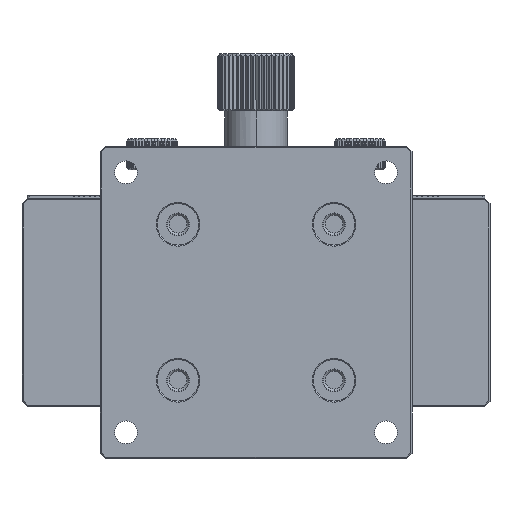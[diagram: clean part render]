
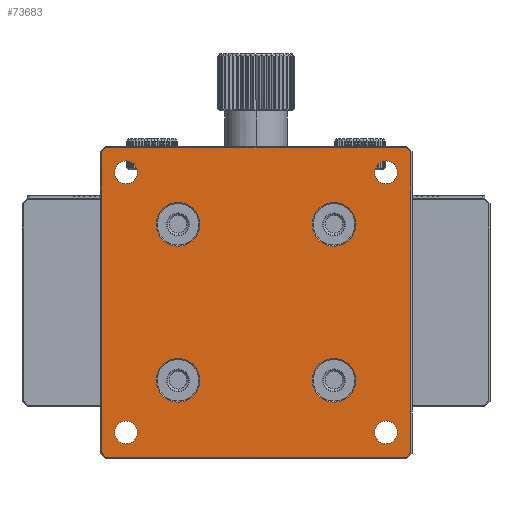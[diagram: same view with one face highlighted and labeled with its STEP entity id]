
A CAD part, front view. The second image highlights one B-rep face of the part: STEP entity #73683.
In plain terms, the highlighted planar face has unit normal (0, -1, 0).
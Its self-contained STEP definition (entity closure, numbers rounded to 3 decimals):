
#72572=CARTESIAN_POINT('',(-25.,0.,-25.));
#72573=DIRECTION('',(0.,1.,0.));
#72574=DIRECTION('',(1.,0.,0.));
#72575=AXIS2_PLACEMENT_3D('',#72572,#72573,#72574);
#72577=CARTESIAN_POINT('',(-25.,0.,-25.));
#72578=DIRECTION('',(0.,1.,0.));
#72579=DIRECTION('',(-1.,0.,0.));
#72580=AXIS2_PLACEMENT_3D('',#72577,#72578,#72579);
#72582=CARTESIAN_POINT('',(25.,0.,-25.));
#72583=DIRECTION('',(0.,1.,0.));
#72584=DIRECTION('',(1.,0.,0.));
#72585=AXIS2_PLACEMENT_3D('',#72582,#72583,#72584);
#72587=CARTESIAN_POINT('',(25.,0.,-25.));
#72588=DIRECTION('',(0.,1.,0.));
#72589=DIRECTION('',(-1.,0.,0.));
#72590=AXIS2_PLACEMENT_3D('',#72587,#72588,#72589);
#72592=CARTESIAN_POINT('',(-25.,0.,25.));
#72593=DIRECTION('',(0.,1.,0.));
#72594=DIRECTION('',(1.,0.,0.));
#72595=AXIS2_PLACEMENT_3D('',#72592,#72593,#72594);
#72597=CARTESIAN_POINT('',(-25.,0.,25.));
#72598=DIRECTION('',(0.,1.,0.));
#72599=DIRECTION('',(-1.,0.,0.));
#72600=AXIS2_PLACEMENT_3D('',#72597,#72598,#72599);
#72602=CARTESIAN_POINT('',(25.,0.,25.));
#72603=DIRECTION('',(0.,1.,0.));
#72604=DIRECTION('',(1.,0.,0.));
#72605=AXIS2_PLACEMENT_3D('',#72602,#72603,#72604);
#72607=CARTESIAN_POINT('',(25.,0.,25.));
#72608=DIRECTION('',(0.,1.,0.));
#72609=DIRECTION('',(-1.,0.,0.));
#72610=AXIS2_PLACEMENT_3D('',#72607,#72608,#72609);
#72612=DIRECTION('',(-0.707,0.,-0.707));
#72613=VECTOR('',#72612,1.249);
#72614=CARTESIAN_POINT('',(-28.917,0.,29.8));
#72615=LINE('',#72614,#72613);
#72616=DIRECTION('',(-1.,0.,0.));
#72617=VECTOR('',#72616,57.834);
#72618=CARTESIAN_POINT('',(28.917,0.,29.8));
#72619=LINE('',#72618,#72617);
#72620=DIRECTION('',(-0.707,0.,0.707));
#72621=VECTOR('',#72620,1.249);
#72622=CARTESIAN_POINT('',(29.8,0.,28.917));
#72623=LINE('',#72622,#72621);
#72624=DIRECTION('',(0.,0.,1.));
#72625=VECTOR('',#72624,57.834);
#72626=CARTESIAN_POINT('',(29.8,0.,-28.917));
#72627=LINE('',#72626,#72625);
#72628=DIRECTION('',(0.707,0.,0.707));
#72629=VECTOR('',#72628,1.249);
#72630=CARTESIAN_POINT('',(28.917,0.,-29.8));
#72631=LINE('',#72630,#72629);
#72632=DIRECTION('',(1.,0.,0.));
#72633=VECTOR('',#72632,57.834);
#72634=CARTESIAN_POINT('',(-28.917,0.,-29.8));
#72635=LINE('',#72634,#72633);
#72636=DIRECTION('',(0.707,0.,-0.707));
#72637=VECTOR('',#72636,1.249);
#72638=CARTESIAN_POINT('',(-29.8,0.,-28.917));
#72639=LINE('',#72638,#72637);
#72640=DIRECTION('',(0.,0.,-1.));
#72641=VECTOR('',#72640,57.834);
#72642=CARTESIAN_POINT('',(-29.8,0.,28.917));
#72643=LINE('',#72642,#72641);
#72644=CARTESIAN_POINT('',(15.,0.,-15.));
#72645=DIRECTION('',(0.,1.,0.));
#72646=DIRECTION('',(-1.,0.,0.));
#72647=AXIS2_PLACEMENT_3D('',#72644,#72645,#72646);
#72649=CARTESIAN_POINT('',(15.,0.,-15.));
#72650=DIRECTION('',(0.,1.,0.));
#72651=DIRECTION('',(1.,0.,0.));
#72652=AXIS2_PLACEMENT_3D('',#72649,#72650,#72651);
#72654=CARTESIAN_POINT('',(15.,0.,15.));
#72655=DIRECTION('',(0.,1.,0.));
#72656=DIRECTION('',(-1.,0.,0.));
#72657=AXIS2_PLACEMENT_3D('',#72654,#72655,#72656);
#72659=CARTESIAN_POINT('',(15.,0.,15.));
#72660=DIRECTION('',(0.,1.,0.));
#72661=DIRECTION('',(1.,0.,0.));
#72662=AXIS2_PLACEMENT_3D('',#72659,#72660,#72661);
#72664=CARTESIAN_POINT('',(-15.,0.,-15.));
#72665=DIRECTION('',(0.,1.,0.));
#72666=DIRECTION('',(-1.,0.,0.));
#72667=AXIS2_PLACEMENT_3D('',#72664,#72665,#72666);
#72669=CARTESIAN_POINT('',(-15.,0.,-15.));
#72670=DIRECTION('',(0.,1.,0.));
#72671=DIRECTION('',(1.,0.,0.));
#72672=AXIS2_PLACEMENT_3D('',#72669,#72670,#72671);
#72674=CARTESIAN_POINT('',(-15.,0.,15.));
#72675=DIRECTION('',(0.,1.,0.));
#72676=DIRECTION('',(-1.,0.,0.));
#72677=AXIS2_PLACEMENT_3D('',#72674,#72675,#72676);
#72679=CARTESIAN_POINT('',(-15.,0.,15.));
#72680=DIRECTION('',(0.,1.,0.));
#72681=DIRECTION('',(1.,0.,0.));
#72682=AXIS2_PLACEMENT_3D('',#72679,#72680,#72681);
#73420=CARTESIAN_POINT('',(-22.8,0.,-25.));
#73421=CARTESIAN_POINT('',(-27.2,0.,-25.));
#73422=VERTEX_POINT('',#73420);
#73423=VERTEX_POINT('',#73421);
#73424=CARTESIAN_POINT('',(27.2,0.,-25.));
#73425=CARTESIAN_POINT('',(22.8,0.,-25.));
#73426=VERTEX_POINT('',#73424);
#73427=VERTEX_POINT('',#73425);
#73428=CARTESIAN_POINT('',(-22.8,0.,25.));
#73429=CARTESIAN_POINT('',(-27.2,0.,25.));
#73430=VERTEX_POINT('',#73428);
#73431=VERTEX_POINT('',#73429);
#73432=CARTESIAN_POINT('',(27.2,0.,25.));
#73433=CARTESIAN_POINT('',(22.8,0.,25.));
#73434=VERTEX_POINT('',#73432);
#73435=VERTEX_POINT('',#73433);
#73484=CARTESIAN_POINT('',(-28.917,0.,29.8));
#73485=CARTESIAN_POINT('',(-29.8,0.,28.917));
#73486=VERTEX_POINT('',#73484);
#73487=VERTEX_POINT('',#73485);
#73488=CARTESIAN_POINT('',(-29.8,0.,-28.917));
#73489=VERTEX_POINT('',#73488);
#73490=CARTESIAN_POINT('',(-28.917,0.,-29.8));
#73491=VERTEX_POINT('',#73490);
#73492=CARTESIAN_POINT('',(28.917,0.,-29.8));
#73493=VERTEX_POINT('',#73492);
#73494=CARTESIAN_POINT('',(29.8,0.,-28.917));
#73495=VERTEX_POINT('',#73494);
#73496=CARTESIAN_POINT('',(29.8,0.,28.917));
#73497=VERTEX_POINT('',#73496);
#73498=CARTESIAN_POINT('',(28.917,0.,29.8));
#73499=VERTEX_POINT('',#73498);
#73580=CARTESIAN_POINT('',(10.8,0.,-15.));
#73581=CARTESIAN_POINT('',(19.2,0.,-15.));
#73582=VERTEX_POINT('',#73580);
#73583=VERTEX_POINT('',#73581);
#73588=CARTESIAN_POINT('',(10.8,0.,15.));
#73589=CARTESIAN_POINT('',(19.2,0.,15.));
#73590=VERTEX_POINT('',#73588);
#73591=VERTEX_POINT('',#73589);
#73596=CARTESIAN_POINT('',(-19.2,0.,-15.));
#73597=CARTESIAN_POINT('',(-10.8,0.,-15.));
#73598=VERTEX_POINT('',#73596);
#73599=VERTEX_POINT('',#73597);
#73604=CARTESIAN_POINT('',(-19.2,0.,15.));
#73605=CARTESIAN_POINT('',(-10.8,0.,15.));
#73606=VERTEX_POINT('',#73604);
#73607=VERTEX_POINT('',#73605);
#73612=CARTESIAN_POINT('',(0.,0.,0.));
#73613=DIRECTION('',(0.,1.,0.));
#73614=DIRECTION('',(1.,0.,0.));
#73615=AXIS2_PLACEMENT_3D('',#73612,#73613,#73614);
#73616=PLANE('',#73615);
#73618=ORIENTED_EDGE('',*,*,#73617,.F.);
#73620=ORIENTED_EDGE('',*,*,#73619,.F.);
#73622=ORIENTED_EDGE('',*,*,#73621,.F.);
#73624=ORIENTED_EDGE('',*,*,#73623,.F.);
#73626=ORIENTED_EDGE('',*,*,#73625,.F.);
#73628=ORIENTED_EDGE('',*,*,#73627,.F.);
#73630=ORIENTED_EDGE('',*,*,#73629,.F.);
#73632=ORIENTED_EDGE('',*,*,#73631,.F.);
#73633=EDGE_LOOP('',(#73618,#73620,#73622,#73624,#73626,#73628,#73630,#73632));
#73634=FACE_OUTER_BOUND('',#73633,.F.);
#73636=ORIENTED_EDGE('',*,*,#73635,.F.);
#73638=ORIENTED_EDGE('',*,*,#73637,.F.);
#73639=EDGE_LOOP('',(#73636,#73638));
#73640=FACE_BOUND('',#73639,.F.);
#73642=ORIENTED_EDGE('',*,*,#73641,.F.);
#73644=ORIENTED_EDGE('',*,*,#73643,.F.);
#73645=EDGE_LOOP('',(#73642,#73644));
#73646=FACE_BOUND('',#73645,.F.);
#73648=ORIENTED_EDGE('',*,*,#73647,.F.);
#73650=ORIENTED_EDGE('',*,*,#73649,.F.);
#73651=EDGE_LOOP('',(#73648,#73650));
#73652=FACE_BOUND('',#73651,.F.);
#73654=ORIENTED_EDGE('',*,*,#73653,.F.);
#73656=ORIENTED_EDGE('',*,*,#73655,.F.);
#73657=EDGE_LOOP('',(#73654,#73656));
#73658=FACE_BOUND('',#73657,.F.);
#73660=ORIENTED_EDGE('',*,*,#73659,.F.);
#73662=ORIENTED_EDGE('',*,*,#73661,.F.);
#73663=EDGE_LOOP('',(#73660,#73662));
#73664=FACE_BOUND('',#73663,.F.);
#73666=ORIENTED_EDGE('',*,*,#73665,.F.);
#73668=ORIENTED_EDGE('',*,*,#73667,.F.);
#73669=EDGE_LOOP('',(#73666,#73668));
#73670=FACE_BOUND('',#73669,.F.);
#73672=ORIENTED_EDGE('',*,*,#73671,.F.);
#73674=ORIENTED_EDGE('',*,*,#73673,.F.);
#73675=EDGE_LOOP('',(#73672,#73674));
#73676=FACE_BOUND('',#73675,.F.);
#73678=ORIENTED_EDGE('',*,*,#73677,.F.);
#73680=ORIENTED_EDGE('',*,*,#73679,.F.);
#73681=EDGE_LOOP('',(#73678,#73680));
#73682=FACE_BOUND('',#73681,.F.);
#73683=ADVANCED_FACE('',(#73634,#73640,#73646,#73652,#73658,#73664,#73670,
#73676,#73682),#73616,.F.);
#72576=CIRCLE('',#72575,2.2);
#72581=CIRCLE('',#72580,2.2);
#72586=CIRCLE('',#72585,2.2);
#72591=CIRCLE('',#72590,2.2);
#72596=CIRCLE('',#72595,2.2);
#72601=CIRCLE('',#72600,2.2);
#72606=CIRCLE('',#72605,2.2);
#72611=CIRCLE('',#72610,2.2);
#72648=CIRCLE('',#72647,4.2);
#72653=CIRCLE('',#72652,4.2);
#72658=CIRCLE('',#72657,4.2);
#72663=CIRCLE('',#72662,4.2);
#72668=CIRCLE('',#72667,4.2);
#72673=CIRCLE('',#72672,4.2);
#72678=CIRCLE('',#72677,4.2);
#72683=CIRCLE('',#72682,4.2);
#73617=EDGE_CURVE('',#73486,#73487,#72615,.T.);
#73619=EDGE_CURVE('',#73499,#73486,#72619,.T.);
#73621=EDGE_CURVE('',#73497,#73499,#72623,.T.);
#73623=EDGE_CURVE('',#73495,#73497,#72627,.T.);
#73625=EDGE_CURVE('',#73493,#73495,#72631,.T.);
#73627=EDGE_CURVE('',#73491,#73493,#72635,.T.);
#73629=EDGE_CURVE('',#73489,#73491,#72639,.T.);
#73631=EDGE_CURVE('',#73487,#73489,#72643,.T.);
#73635=EDGE_CURVE('',#73426,#73427,#72586,.T.);
#73637=EDGE_CURVE('',#73427,#73426,#72591,.T.);
#73641=EDGE_CURVE('',#73430,#73431,#72596,.T.);
#73643=EDGE_CURVE('',#73431,#73430,#72601,.T.);
#73647=EDGE_CURVE('',#73434,#73435,#72606,.T.);
#73649=EDGE_CURVE('',#73435,#73434,#72611,.T.);
#73653=EDGE_CURVE('',#73422,#73423,#72576,.T.);
#73655=EDGE_CURVE('',#73423,#73422,#72581,.T.);
#73659=EDGE_CURVE('',#73582,#73583,#72648,.T.);
#73661=EDGE_CURVE('',#73583,#73582,#72653,.T.);
#73665=EDGE_CURVE('',#73590,#73591,#72658,.T.);
#73667=EDGE_CURVE('',#73591,#73590,#72663,.T.);
#73671=EDGE_CURVE('',#73598,#73599,#72668,.T.);
#73673=EDGE_CURVE('',#73599,#73598,#72673,.T.);
#73677=EDGE_CURVE('',#73606,#73607,#72678,.T.);
#73679=EDGE_CURVE('',#73607,#73606,#72683,.T.);
